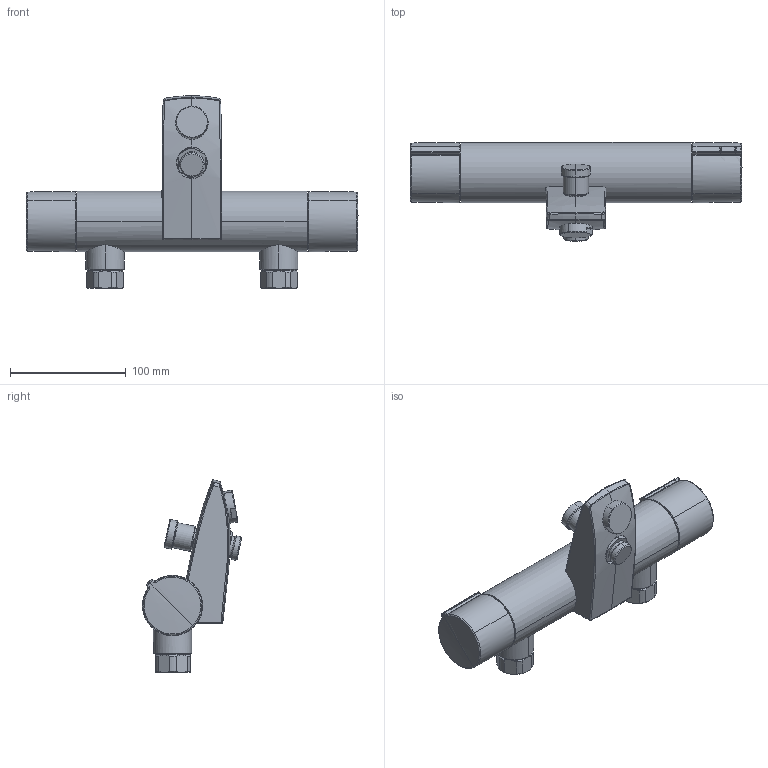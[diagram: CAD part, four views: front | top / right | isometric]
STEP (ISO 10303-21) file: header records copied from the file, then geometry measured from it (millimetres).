
FILE_DESCRIPTION (( 'STEP AP203' ), '1' );
FILE_NAME ('2875.STEP', '2018-07-10T09:35:22', ( '' ), ( '' ), 'SwSTEP 2.0', 'SolidWorks 2016', '' );
FILE_SCHEMA (( 'CONFIG_CONTROL_DESIGN' ));
Length unit declared in the file: millimetre
Products named in the file (1): 2875
Bounding box: 286.72 x 85.65 x 166.27 mm (x, y, z)
Volume: 817223.2 mm3; surface area: 85496 mm2
Topology: 1 solids, 1 shells, 340 faces, 802 edges, 479 vertices
Faces by surface type: bspline 103, plane 78, cylinder 75, cone 42, torus 30, sphere 12
Entity records: 14018 total; most frequent: CARTESIAN_POINT 6987, ORIENTED_EDGE 1584, DIRECTION 1275, EDGE_CURVE 792, AXIS2_PLACEMENT_3D 540, VERTEX_POINT 479, EDGE_LOOP 365, ADVANCED_FACE 340
